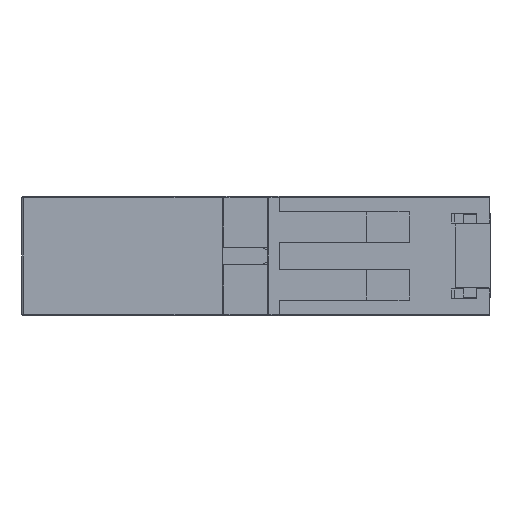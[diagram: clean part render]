
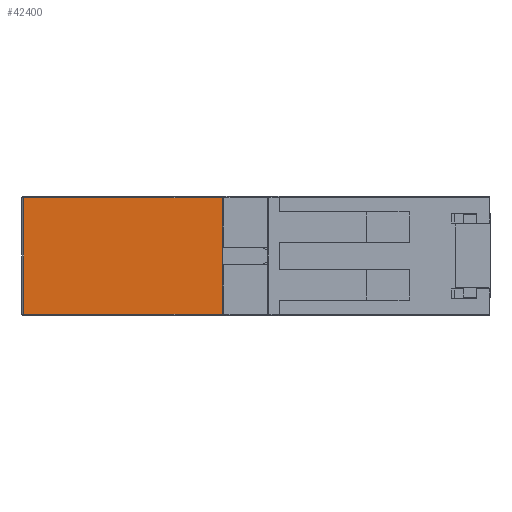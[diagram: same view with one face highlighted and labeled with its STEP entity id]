
A CAD part, left-side view. The second image highlights one B-rep face of the part: STEP entity #42400.
In plain terms, the highlighted planar face has unit normal (-1, 0, 0).
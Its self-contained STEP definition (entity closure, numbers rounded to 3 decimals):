
#991 = VERTEX_POINT ( 'NONE', #87610 ) ;
#1792 = AXIS2_PLACEMENT_3D ( 'NONE', #37023, #20270, #6132 ) ;
#2967 = EDGE_CURVE ( 'NONE', #49095, #33558, #37401, .T. ) ;
#3314 = ORIENTED_EDGE ( 'NONE', *, *, #48694, .T. ) ;
#3422 = DIRECTION ( 'NONE',  ( 0., 0., -1. ) ) ;
#4056 = VERTEX_POINT ( 'NONE', #95731 ) ;
#4534 = VERTEX_POINT ( 'NONE', #24159 ) ;
#5311 = CARTESIAN_POINT ( 'NONE',  ( -27.3, 60.8, -7.6 ) ) ;
#5329 = PLANE ( 'NONE',  #101478 ) ;
#5922 = VECTOR ( 'NONE', #72727, 1000. ) ;
#6052 = DIRECTION ( 'NONE',  ( 0., 0., -1. ) ) ;
#6132 = DIRECTION ( 'NONE',  ( 0., 0., -1. ) ) ;
#6880 = VECTOR ( 'NONE', #19785, 1000. ) ;
#7886 = CARTESIAN_POINT ( 'NONE',  ( -27.3, 34.65, 6.4 ) ) ;
#10624 = CARTESIAN_POINT ( 'NONE',  ( -27.3, 27.95, -6.4 ) ) ;
#10903 = ORIENTED_EDGE ( 'NONE', *, *, #84959, .F. ) ;
#11868 = CARTESIAN_POINT ( 'NONE',  ( -27.3, 34.85, -6.2 ) ) ;
#11901 = LINE ( 'NONE', #93194, #6880 ) ;
#12115 = VECTOR ( 'NONE', #45238, 1000. ) ;
#12140 = DIRECTION ( 'NONE',  ( 0., 0., -1. ) ) ;
#12547 = EDGE_CURVE ( 'NONE', #75566, #49095, #69781, .T. ) ;
#12863 = DIRECTION ( 'NONE',  ( 0., 0., -1. ) ) ;
#14357 = AXIS2_PLACEMENT_3D ( 'NONE', #94103, #53731, #12863 ) ;
#17190 = VERTEX_POINT ( 'NONE', #79812 ) ;
#17862 = VECTOR ( 'NONE', #95490, 1000. ) ;
#19704 = LINE ( 'NONE', #34893, #67393 ) ;
#19785 = DIRECTION ( 'NONE',  ( 0., 1., 0. ) ) ;
#20171 = CIRCLE ( 'NONE', #1792, 0.2 ) ;
#20270 = DIRECTION ( 'NONE',  ( 1., 0., 0. ) ) ;
#20448 = CARTESIAN_POINT ( 'NONE',  ( -27.3, 28.5, -1.15 ) ) ;
#21568 = FACE_OUTER_BOUND ( 'NONE', #45319, .T. ) ;
#21673 = CARTESIAN_POINT ( 'NONE',  ( -27.3, 34.85, -1.15 ) ) ;
#22194 = DIRECTION ( 'NONE',  ( 0., 0., -1. ) ) ;
#23915 = ORIENTED_EDGE ( 'NONE', *, *, #70304, .T. ) ;
#24159 = CARTESIAN_POINT ( 'NONE',  ( -27.3, 28.5, 1.15 ) ) ;
#25430 = ORIENTED_EDGE ( 'NONE', *, *, #30890, .T. ) ;
#25619 = EDGE_CURVE ( 'NONE', #62492, #96909, #42746, .T. ) ;
#26450 = DIRECTION ( 'NONE',  ( 0., 1., 0. ) ) ;
#26542 = DIRECTION ( 'NONE',  ( 0., 1., 0. ) ) ;
#26681 = ORIENTED_EDGE ( 'NONE', *, *, #53249, .T. ) ;
#27985 = LINE ( 'NONE', #34807, #97493 ) ;
#28896 = DIRECTION ( 'NONE',  ( 1., 0., 0. ) ) ;
#28987 = EDGE_CURVE ( 'NONE', #17190, #41388, #19704, .T. ) ;
#29210 = ORIENTED_EDGE ( 'NONE', *, *, #2967, .F. ) ;
#29944 = CARTESIAN_POINT ( 'NONE',  ( -27.3, 34., 7.8 ) ) ;
#30646 = EDGE_CURVE ( 'NONE', #4534, #75566, #38901, .T. ) ;
#30890 = EDGE_CURVE ( 'NONE', #68456, #61615, #67722, .T. ) ;
#31691 = ORIENTED_EDGE ( 'NONE', *, *, #58195, .F. ) ;
#33558 = VERTEX_POINT ( 'NONE', #11868 ) ;
#34807 = CARTESIAN_POINT ( 'NONE',  ( -27.3, 27.1, -6.4 ) ) ;
#34893 = CARTESIAN_POINT ( 'NONE',  ( -27.3, 27.1, 6.4 ) ) ;
#36030 = VECTOR ( 'NONE', #68706, 1000. ) ;
#36567 = CARTESIAN_POINT ( 'NONE',  ( -27.3, 28.5, -1.15 ) ) ;
#37023 = CARTESIAN_POINT ( 'NONE',  ( -27.3, 34.65, 6.2 ) ) ;
#37401 = LINE ( 'NONE', #21673, #72419 ) ;
#38901 = LINE ( 'NONE', #55178, #12115 ) ;
#41388 = VERTEX_POINT ( 'NONE', #7886 ) ;
#42400 = ADVANCED_FACE ( 'NONE', ( #21568 ), #5329, .F. ) ;
#42746 = LINE ( 'NONE', #74758, #44987 ) ;
#43753 = CARTESIAN_POINT ( 'NONE',  ( -27.3, 34.85, -1.15 ) ) ;
#44987 = VECTOR ( 'NONE', #3422, 1000. ) ;
#45238 = DIRECTION ( 'NONE',  ( 0., 0., -1. ) ) ;
#45319 = EDGE_LOOP ( 'NONE', ( #31691, #47871, #26681, #25430, #10903, #58982, #85335, #29210, #94339, #51169, #3314, #86677, #23915, #103351 ) ) ;
#47532 = EDGE_CURVE ( 'NONE', #78005, #4056, #100497, .T. ) ;
#47871 = ORIENTED_EDGE ( 'NONE', *, *, #47532, .T. ) ;
#48694 = EDGE_CURVE ( 'NONE', #4534, #96909, #11901, .T. ) ;
#49095 = VERTEX_POINT ( 'NONE', #43753 ) ;
#50850 = CARTESIAN_POINT ( 'NONE',  ( -27.3, 34.85, 6.2 ) ) ;
#51169 = ORIENTED_EDGE ( 'NONE', *, *, #30646, .F. ) ;
#51232 = CARTESIAN_POINT ( 'NONE',  ( -27.3, 34., 7.6 ) ) ;
#53249 = EDGE_CURVE ( 'NONE', #4056, #68456, #79010, .T. ) ;
#53731 = DIRECTION ( 'NONE',  ( 1., 0., 0. ) ) ;
#55178 = CARTESIAN_POINT ( 'NONE',  ( -27.3, 28.5, 1.15 ) ) ;
#55290 = LINE ( 'NONE', #77889, #97603 ) ;
#56650 = VERTEX_POINT ( 'NONE', #10624 ) ;
#58195 = EDGE_CURVE ( 'NONE', #78005, #17190, #88155, .T. ) ;
#58803 = CARTESIAN_POINT ( 'NONE',  ( -27.3, 27.1, -7.6 ) ) ;
#58982 = ORIENTED_EDGE ( 'NONE', *, *, #73444, .T. ) ;
#61615 = VERTEX_POINT ( 'NONE', #78058 ) ;
#62492 = VERTEX_POINT ( 'NONE', #50850 ) ;
#63500 = CARTESIAN_POINT ( 'NONE',  ( -27.3, 27.95, 7.8 ) ) ;
#67393 = VECTOR ( 'NONE', #26542, 1000. ) ;
#67722 = LINE ( 'NONE', #58803, #92583 ) ;
#68456 = VERTEX_POINT ( 'NONE', #5311 ) ;
#68706 = DIRECTION ( 'NONE',  ( 0., 1., 0. ) ) ;
#68863 = VECTOR ( 'NONE', #91619, 1000. ) ;
#69781 = LINE ( 'NONE', #20448, #36030 ) ;
#70196 = CARTESIAN_POINT ( 'NONE',  ( -27.3, 27.95, 7.6 ) ) ;
#70304 = EDGE_CURVE ( 'NONE', #62492, #41388, #20171, .T. ) ;
#71315 = CIRCLE ( 'NONE', #14357, 0.2 ) ;
#72419 = VECTOR ( 'NONE', #22194, 1000. ) ;
#72727 = DIRECTION ( 'NONE',  ( 0., 0., -1. ) ) ;
#73444 = EDGE_CURVE ( 'NONE', #56650, #991, #27985, .T. ) ;
#74758 = CARTESIAN_POINT ( 'NONE',  ( -27.3, 34.85, 6.4 ) ) ;
#75566 = VERTEX_POINT ( 'NONE', #36567 ) ;
#77889 = CARTESIAN_POINT ( 'NONE',  ( -27.3, 27.95, -6.4 ) ) ;
#78005 = VERTEX_POINT ( 'NONE', #70196 ) ;
#78058 = CARTESIAN_POINT ( 'NONE',  ( -27.3, 27.95, -7.6 ) ) ;
#79010 = LINE ( 'NONE', #94780, #5922 ) ;
#79812 = CARTESIAN_POINT ( 'NONE',  ( -27.3, 27.95, 6.4 ) ) ;
#84959 = EDGE_CURVE ( 'NONE', #56650, #61615, #55290, .T. ) ;
#85335 = ORIENTED_EDGE ( 'NONE', *, *, #89497, .T. ) ;
#85713 = CARTESIAN_POINT ( 'NONE',  ( -27.3, 34.85, 1.15 ) ) ;
#86677 = ORIENTED_EDGE ( 'NONE', *, *, #25619, .F. ) ;
#87610 = CARTESIAN_POINT ( 'NONE',  ( -27.3, 34.65, -6.4 ) ) ;
#88155 = LINE ( 'NONE', #63500, #17862 ) ;
#89497 = EDGE_CURVE ( 'NONE', #991, #33558, #71315, .T. ) ;
#91619 = DIRECTION ( 'NONE',  ( 0., 1., 0. ) ) ;
#92321 = DIRECTION ( 'NONE',  ( 0., -1., 0. ) ) ;
#92583 = VECTOR ( 'NONE', #92321, 1000. ) ;
#93194 = CARTESIAN_POINT ( 'NONE',  ( -27.3, 28.5, 1.15 ) ) ;
#94103 = CARTESIAN_POINT ( 'NONE',  ( -27.3, 34.65, -6.2 ) ) ;
#94339 = ORIENTED_EDGE ( 'NONE', *, *, #12547, .F. ) ;
#94780 = CARTESIAN_POINT ( 'NONE',  ( -27.3, 60.8, 7.8 ) ) ;
#95490 = DIRECTION ( 'NONE',  ( 0., 0., -1. ) ) ;
#95731 = CARTESIAN_POINT ( 'NONE',  ( -27.3, 60.8, 7.6 ) ) ;
#96909 = VERTEX_POINT ( 'NONE', #85713 ) ;
#97493 = VECTOR ( 'NONE', #26450, 1000. ) ;
#97603 = VECTOR ( 'NONE', #6052, 1000. ) ;
#100497 = LINE ( 'NONE', #51232, #68863 ) ;
#101478 = AXIS2_PLACEMENT_3D ( 'NONE', #29944, #28896, #12140 ) ;
#103351 = ORIENTED_EDGE ( 'NONE', *, *, #28987, .F. ) ;
